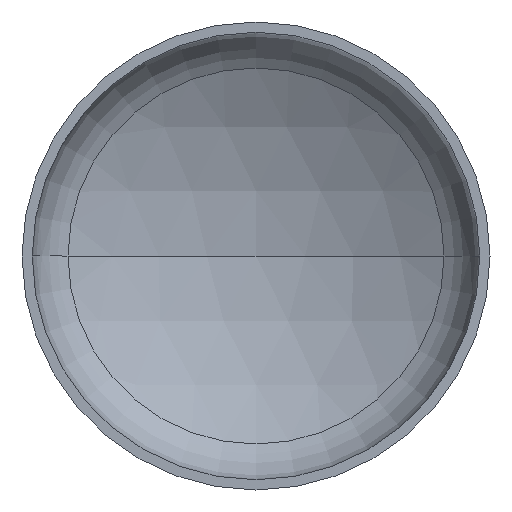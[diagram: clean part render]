
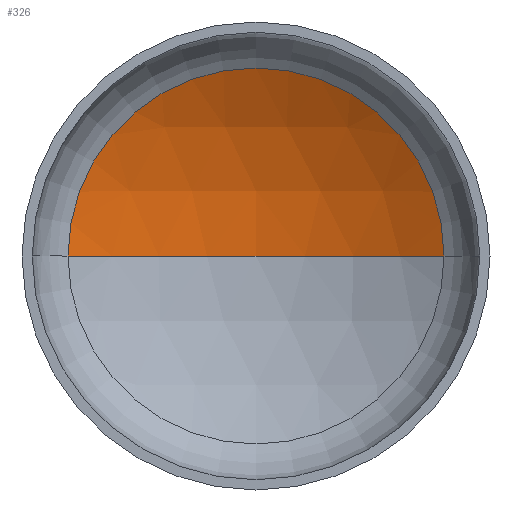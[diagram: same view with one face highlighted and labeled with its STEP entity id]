
A CAD part, front view. The second image highlights one B-rep face of the part: STEP entity #326.
In plain terms, the highlighted spherical face has radius 4400 mm.
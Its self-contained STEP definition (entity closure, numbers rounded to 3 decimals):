
#6 = EDGE_LOOP ( 'NONE', ( #149, #126, #184 ) ) ;
#59 = FACE_OUTER_BOUND ( 'NONE', #6, .T. ) ;
#61 = VERTEX_POINT ( 'NONE', #344 ) ;
#92 = CIRCLE ( 'NONE', #346, 4400. ) ;
#111 = DIRECTION ( 'NONE',  ( -1., 0., 0. ) ) ;
#117 = VERTEX_POINT ( 'NONE', #323 ) ;
#126 = ORIENTED_EDGE ( 'NONE', *, *, #202, .T. ) ;
#129 = CARTESIAN_POINT ( 'NONE',  ( 0., -2999.378, 0. ) ) ;
#147 = DIRECTION ( 'NONE',  ( 1., 0., 0. ) ) ;
#149 = ORIENTED_EDGE ( 'NONE', *, *, #178, .F. ) ;
#158 = DIRECTION ( 'NONE',  ( 0., 0., -1. ) ) ;
#161 = SPHERICAL_SURFACE ( 'NONE', #206, 4400. ) ;
#170 = CARTESIAN_POINT ( 'NONE',  ( 0., 1400.622, 0. ) ) ;
#178 = EDGE_CURVE ( 'NONE', #179, #117, #354, .T. ) ;
#179 = VERTEX_POINT ( 'NONE', #170 ) ;
#184 = ORIENTED_EDGE ( 'NONE', *, *, #221, .T. ) ;
#193 = CARTESIAN_POINT ( 'NONE',  ( 0., -2999.378, 0. ) ) ;
#199 = DIRECTION ( 'NONE',  ( 0., 0., -1. ) ) ;
#202 = EDGE_CURVE ( 'NONE', #179, #61, #92, .T. ) ;
#206 = AXIS2_PLACEMENT_3D ( 'NONE', #129, #158, #111 ) ;
#221 = EDGE_CURVE ( 'NONE', #61, #117, #336, .T. ) ;
#229 = DIRECTION ( 'NONE',  ( 0., -1., 0. ) ) ;
#230 = CARTESIAN_POINT ( 'NONE',  ( 0., 805.759, 0. ) ) ;
#246 = DIRECTION ( 'NONE',  ( 0., 0., 1. ) ) ;
#260 = DIRECTION ( 'NONE',  ( -1., 0., 0. ) ) ;
#271 = DIRECTION ( 'NONE',  ( 1., 0., 0. ) ) ;
#285 = AXIS2_PLACEMENT_3D ( 'NONE', #356, #246, #271 ) ;
#323 = CARTESIAN_POINT ( 'NONE',  ( -2209.283, 805.759, 0. ) ) ;
#326 = ADVANCED_FACE ( 'NONE', ( #59 ), #161, .F. ) ;
#336 = CIRCLE ( 'NONE', #382, 2209.283 ) ;
#344 = CARTESIAN_POINT ( 'NONE',  ( 2209.283, 805.759, 0. ) ) ;
#346 = AXIS2_PLACEMENT_3D ( 'NONE', #193, #199, #260 ) ;
#354 = CIRCLE ( 'NONE', #285, 4400. ) ;
#356 = CARTESIAN_POINT ( 'NONE',  ( 0., -2999.378, 0. ) ) ;
#382 = AXIS2_PLACEMENT_3D ( 'NONE', #230, #229, #147 ) ;
